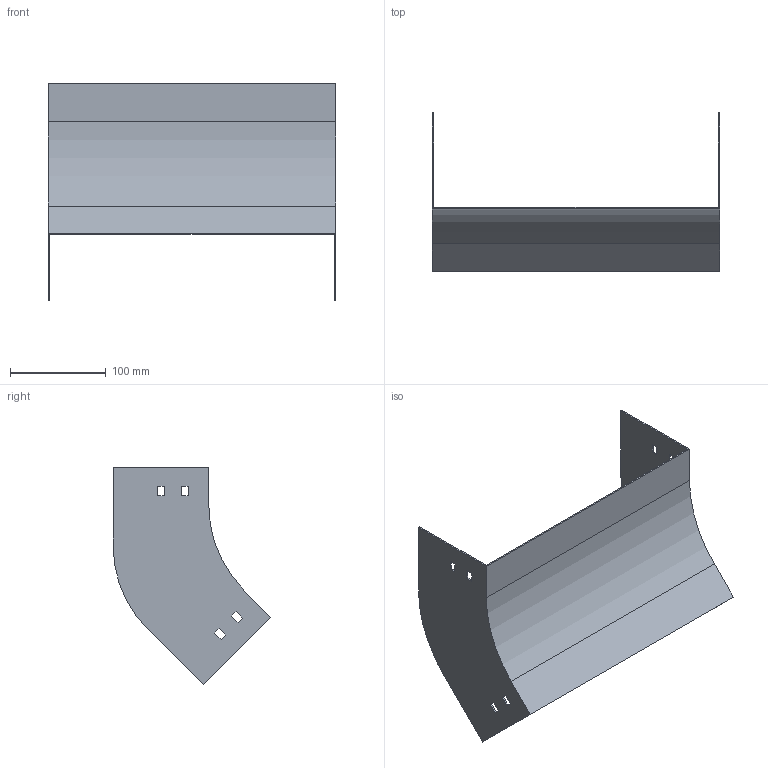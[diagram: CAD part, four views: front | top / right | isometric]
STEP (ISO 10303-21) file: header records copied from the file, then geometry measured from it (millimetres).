
FILE_DESCRIPTION (( 'STEP AP214' ), '1' );
FILE_NAME ('D4_301.step', '2025-07-16T09:07:21', ( '' ), ( '' ), 'SwSTEP 2.0', 'SolidWorks 2023', '' );
FILE_SCHEMA (( 'AUTOMOTIVE_DESIGN' ));
Length unit declared in the file: millimetre
Products named in the file (1): D4_301
Bounding box: 300 x 164.9 x 227.38 mm (x, y, z)
Volume: 146291.7 mm3; surface area: 197735.9 mm2
Topology: 1 solids, 1 shells, 50 faces, 144 edges, 96 vertices
Faces by surface type: plane 46, cylinder 4
Entity records: 1671 total; most frequent: CARTESIAN_POINT 291, ORIENTED_EDGE 288, DIRECTION 254, EDGE_CURVE 144, VECTOR 136, LINE 136, VERTEX_POINT 96, EDGE_LOOP 66
